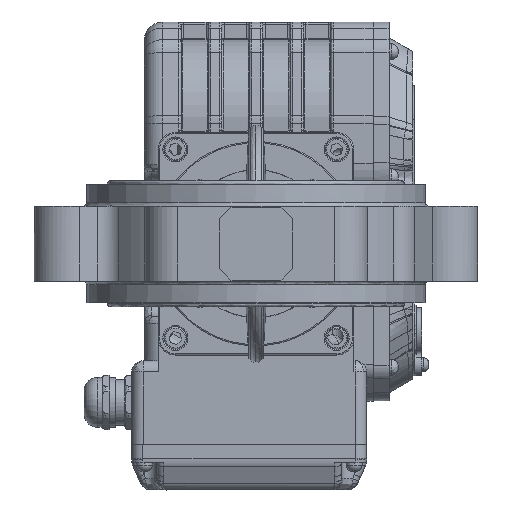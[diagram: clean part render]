
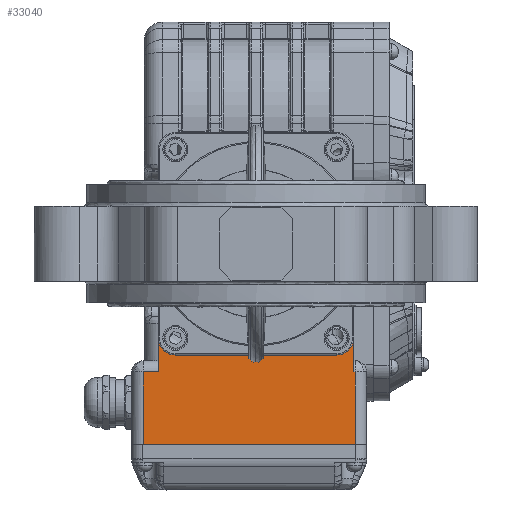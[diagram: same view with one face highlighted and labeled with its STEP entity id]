
A CAD part, front view. The second image highlights one B-rep face of the part: STEP entity #33040.
In plain terms, the highlighted planar face has unit normal (0, -1, 0).
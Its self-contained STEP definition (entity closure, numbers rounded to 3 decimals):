
#477 = AXIS2_PLACEMENT_3D ( 'NONE', #59153, #77363, #31456 ) ;
#693 = EDGE_CURVE ( 'NONE', #18832, #44853, #33952, .T. ) ;
#785 = EDGE_CURVE ( 'NONE', #109191, #74759, #24253, .T. ) ;
#1185 = EDGE_CURVE ( 'NONE', #63563, #109191, #14313, .T. ) ;
#4465 = CARTESIAN_POINT ( 'NONE',  ( -43., 212., 49. ) ) ;
#6032 = VECTOR ( 'NONE', #52046, 1000. ) ;
#9797 = EDGE_CURVE ( 'NONE', #27126, #74759, #45906, .T. ) ;
#11051 = PLANE ( 'NONE',  #111960 ) ;
#12163 = LINE ( 'NONE', #49012, #66085 ) ;
#13098 = EDGE_CURVE ( 'NONE', #86978, #44853, #21773, .T. ) ;
#14094 = CARTESIAN_POINT ( 'NONE',  ( -43., 212., -41. ) ) ;
#14313 = LINE ( 'NONE', #106780, #25492 ) ;
#15224 = CARTESIAN_POINT ( 'NONE',  ( 43.7, 212., -88.4 ) ) ;
#15992 = DIRECTION ( 'NONE',  ( 0., 0., 1. ) ) ;
#16384 = CARTESIAN_POINT ( 'NONE',  ( 48.7, 212., -49. ) ) ;
#18832 = VERTEX_POINT ( 'NONE', #41543 ) ;
#18914 = CARTESIAN_POINT ( 'NONE',  ( -50.218, 212., -56.4 ) ) ;
#19505 = CARTESIAN_POINT ( 'NONE',  ( 48.7, 212., -88.4 ) ) ;
#21507 = DIRECTION ( 'NONE',  ( 0., 0., -1. ) ) ;
#21773 = CIRCLE ( 'NONE', #477, 8. ) ;
#22450 = ORIENTED_EDGE ( 'NONE', *, *, #93911, .T. ) ;
#24253 = LINE ( 'NONE', #15224, #6032 ) ;
#25338 = VECTOR ( 'NONE', #90711, 1000. ) ;
#25492 = VECTOR ( 'NONE', #43907, 1000. ) ;
#25982 = CARTESIAN_POINT ( 'NONE',  ( -50.218, 212., -56.4 ) ) ;
#27126 = VERTEX_POINT ( 'NONE', #89799 ) ;
#29762 = DIRECTION ( 'NONE',  ( 0., -1., 0. ) ) ;
#31456 = DIRECTION ( 'NONE',  ( 0., 0., -1. ) ) ;
#33040 = ADVANCED_FACE ( 'NONE', ( #102303 ), #11051, .T. ) ;
#33952 = LINE ( 'NONE', #16384, #25338 ) ;
#35570 = EDGE_CURVE ( 'NONE', #97039, #86978, #69777, .T. ) ;
#36645 = CARTESIAN_POINT ( 'NONE',  ( -49.7, 212., -56.4 ) ) ;
#36877 = EDGE_LOOP ( 'NONE', ( #98355, #111465, #22450, #98831, #41221, #40563, #96627, #108109, #38492, #103789 ) ) ;
#38492 = ORIENTED_EDGE ( 'NONE', *, *, #693, .T. ) ;
#40563 = ORIENTED_EDGE ( 'NONE', *, *, #9797, .F. ) ;
#40834 = DIRECTION ( 'NONE',  ( 0., 1., 0. ) ) ;
#41221 = ORIENTED_EDGE ( 'NONE', *, *, #785, .T. ) ;
#41543 = CARTESIAN_POINT ( 'NONE',  ( 35., 212., -49. ) ) ;
#42150 = VERTEX_POINT ( 'NONE', #44991 ) ;
#43907 = DIRECTION ( 'NONE',  ( 1., 0., 0. ) ) ;
#44182 = EDGE_CURVE ( 'NONE', #103840, #97039, #86990, .T. ) ;
#44853 = VERTEX_POINT ( 'NONE', #68190 ) ;
#44991 = CARTESIAN_POINT ( 'NONE',  ( 43., 212., -41. ) ) ;
#45906 = LINE ( 'NONE', #25982, #65253 ) ;
#49012 = CARTESIAN_POINT ( 'NONE',  ( -49.7, 212., -88.4 ) ) ;
#50812 = CARTESIAN_POINT ( 'NONE',  ( 43.7, 212., -56.4 ) ) ;
#52046 = DIRECTION ( 'NONE',  ( 0., 0., 1. ) ) ;
#52316 = LINE ( 'NONE', #68041, #103119 ) ;
#55732 = DIRECTION ( 'NONE',  ( 1., 0., 0. ) ) ;
#59153 = CARTESIAN_POINT ( 'NONE',  ( -35., 212., -41. ) ) ;
#60719 = CARTESIAN_POINT ( 'NONE',  ( -49.7, 212., -88.4 ) ) ;
#63563 = VERTEX_POINT ( 'NONE', #60719 ) ;
#65221 = EDGE_CURVE ( 'NONE', #27126, #42150, #52316, .T. ) ;
#65253 = VECTOR ( 'NONE', #119648, 1000. ) ;
#66085 = VECTOR ( 'NONE', #85868, 1000. ) ;
#66585 = DIRECTION ( 'NONE',  ( 0., 0., 1. ) ) ;
#68041 = CARTESIAN_POINT ( 'NONE',  ( 43., 212., -88.4 ) ) ;
#68190 = CARTESIAN_POINT ( 'NONE',  ( -35., 212., -49. ) ) ;
#69777 = LINE ( 'NONE', #4465, #112120 ) ;
#69840 = AXIS2_PLACEMENT_3D ( 'NONE', #112777, #40834, #21507 ) ;
#74759 = VERTEX_POINT ( 'NONE', #50812 ) ;
#76819 = CARTESIAN_POINT ( 'NONE',  ( -43., 212., -56.4 ) ) ;
#77363 = DIRECTION ( 'NONE',  ( 0., -1., 0. ) ) ;
#85603 = CARTESIAN_POINT ( 'NONE',  ( 43.7, 212., -88.4 ) ) ;
#85868 = DIRECTION ( 'NONE',  ( 0., 0., -1. ) ) ;
#86978 = VERTEX_POINT ( 'NONE', #14094 ) ;
#86990 = LINE ( 'NONE', #18914, #103270 ) ;
#89799 = CARTESIAN_POINT ( 'NONE',  ( 43., 212., -56.4 ) ) ;
#90711 = DIRECTION ( 'NONE',  ( -1., 0., 0. ) ) ;
#93911 = EDGE_CURVE ( 'NONE', #103840, #63563, #12163, .T. ) ;
#96627 = ORIENTED_EDGE ( 'NONE', *, *, #65221, .T. ) ;
#97039 = VERTEX_POINT ( 'NONE', #76819 ) ;
#98355 = ORIENTED_EDGE ( 'NONE', *, *, #35570, .F. ) ;
#98831 = ORIENTED_EDGE ( 'NONE', *, *, #1185, .T. ) ;
#100723 = CIRCLE ( 'NONE', #69840, 8. ) ;
#102303 = FACE_OUTER_BOUND ( 'NONE', #36877, .T. ) ;
#103119 = VECTOR ( 'NONE', #104929, 1000. ) ;
#103270 = VECTOR ( 'NONE', #55732, 1000. ) ;
#103789 = ORIENTED_EDGE ( 'NONE', *, *, #13098, .F. ) ;
#103840 = VERTEX_POINT ( 'NONE', #36645 ) ;
#104929 = DIRECTION ( 'NONE',  ( 0., 0., 1. ) ) ;
#106025 = EDGE_CURVE ( 'NONE', #42150, #18832, #100723, .T. ) ;
#106780 = CARTESIAN_POINT ( 'NONE',  ( 48.7, 212., -88.4 ) ) ;
#108109 = ORIENTED_EDGE ( 'NONE', *, *, #106025, .T. ) ;
#109191 = VERTEX_POINT ( 'NONE', #85603 ) ;
#111465 = ORIENTED_EDGE ( 'NONE', *, *, #44182, .F. ) ;
#111960 = AXIS2_PLACEMENT_3D ( 'NONE', #19505, #29762, #66585 ) ;
#112120 = VECTOR ( 'NONE', #15992, 1000. ) ;
#112777 = CARTESIAN_POINT ( 'NONE',  ( 35., 212., -41. ) ) ;
#119648 = DIRECTION ( 'NONE',  ( 1., 0., 0. ) ) ;
